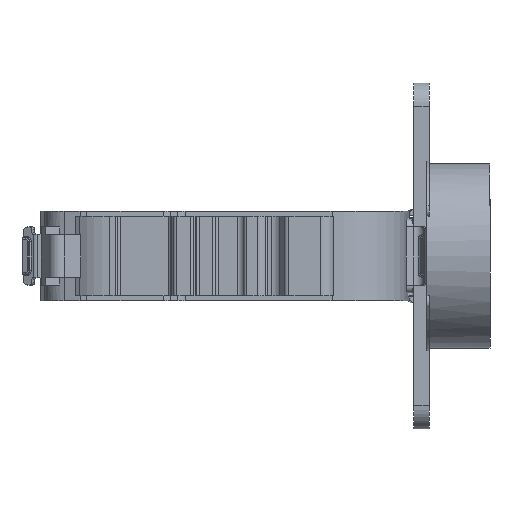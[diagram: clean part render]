
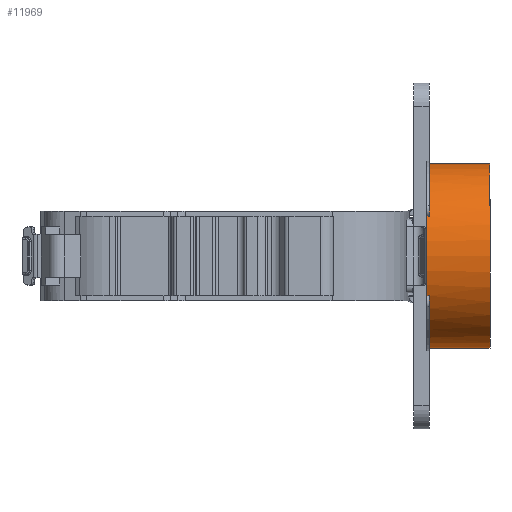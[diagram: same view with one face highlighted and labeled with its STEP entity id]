
A CAD part, front view. The second image highlights one B-rep face of the part: STEP entity #11969.
In plain terms, the highlighted cylindrical face has radius 17.45 mm (diameter 34.9 mm), a partial arc.
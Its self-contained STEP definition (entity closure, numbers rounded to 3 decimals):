
#191 = CARTESIAN_POINT ( 'NONE',  ( 37.997, 7.757, 7.528 ) ) ;
#420 = CARTESIAN_POINT ( 'NONE',  ( -11.859, 23.5, 0. ) ) ;
#468 = EDGE_CURVE ( 'NONE', #7063, #8693, #11532, .T. ) ;
#545 = CARTESIAN_POINT ( 'NONE',  ( 37.536, 7.757, -7.528 ) ) ;
#569 = AXIS2_PLACEMENT_3D ( 'NONE', #1573, #1799, #10868 ) ;
#862 = DIRECTION ( 'NONE',  ( 1., 0., 0. ) ) ;
#996 = EDGE_CURVE ( 'NONE', #13203, #8693, #7516, .T. ) ;
#1015 = LINE ( 'NONE', #10222, #9116 ) ;
#1101 = EDGE_CURVE ( 'NONE', #13203, #8026, #13282, .T. ) ;
#1117 = EDGE_CURVE ( 'NONE', #8586, #14364, #9577, .T. ) ;
#1317 = VECTOR ( 'NONE', #10310, 1000. ) ;
#1356 = DIRECTION ( 'NONE',  ( 0., 0., 1. ) ) ;
#1410 = CARTESIAN_POINT ( 'NONE',  ( 37.497, 8.034, -8.081 ) ) ;
#1514 = EDGE_CURVE ( 'NONE', #8586, #8026, #6414, .T. ) ;
#1553 = ORIENTED_EDGE ( 'NONE', *, *, #3423, .F. ) ;
#1573 = CARTESIAN_POINT ( 'NONE',  ( 37.997, 23.5, 0. ) ) ;
#1632 = CARTESIAN_POINT ( 'NONE',  ( 37.997, 23.5, 0. ) ) ;
#1796 = CARTESIAN_POINT ( 'NONE',  ( 37.497, 8.034, -8.081 ) ) ;
#1799 = DIRECTION ( 'NONE',  ( 1., 0., 0. ) ) ;
#2059 = CIRCLE ( 'NONE', #4671, 17.45 ) ;
#2167 = CIRCLE ( 'NONE', #12770, 17.45 ) ;
#2440 = VERTEX_POINT ( 'NONE', #4892 ) ;
#2544 = CARTESIAN_POINT ( 'NONE',  ( 37.516, 7.846, -7.714 ) ) ;
#2545 = ORIENTED_EDGE ( 'NONE', *, *, #1117, .T. ) ;
#2577 = CARTESIAN_POINT ( 'NONE',  ( 37.997, 7.757, -7.528 ) ) ;
#2782 = DIRECTION ( 'NONE',  ( 1., 0., 0. ) ) ;
#2799 = EDGE_CURVE ( 'NONE', #14364, #2440, #2059, .T. ) ;
#2912 = DIRECTION ( 'NONE',  ( 1., 0., 0. ) ) ;
#2926 = ORIENTED_EDGE ( 'NONE', *, *, #4491, .T. ) ;
#3026 = CARTESIAN_POINT ( 'NONE',  ( 37.497, 7.938, 7.898 ) ) ;
#3238 = VERTEX_POINT ( 'NONE', #10555 ) ;
#3423 = EDGE_CURVE ( 'NONE', #3238, #11216, #13567, .T. ) ;
#3649 = CYLINDRICAL_SURFACE ( 'NONE', #11503, 17.45 ) ;
#3831 = DIRECTION ( 'NONE',  ( 0., 0., -1. ) ) ;
#4207 = CARTESIAN_POINT ( 'NONE',  ( 37.497, 8.034, 8.081 ) ) ;
#4491 = EDGE_CURVE ( 'NONE', #3238, #7063, #11441, .T. ) ;
#4571 = CARTESIAN_POINT ( 'NONE',  ( 37.747, 7.757, 7.528 ) ) ;
#4671 = AXIS2_PLACEMENT_3D ( 'NONE', #1632, #2912, #5166 ) ;
#4790 = FACE_OUTER_BOUND ( 'NONE', #8856, .T. ) ;
#4892 = CARTESIAN_POINT ( 'NONE',  ( 37.997, 23.5, -17.45 ) ) ;
#4971 = DIRECTION ( 'NONE',  ( 1., 0., 0. ) ) ;
#5018 = DIRECTION ( 'NONE',  ( 1., 0., 0. ) ) ;
#5166 = DIRECTION ( 'NONE',  ( 0., 0., -1. ) ) ;
#5213 = CARTESIAN_POINT ( 'NONE',  ( 37.516, 7.846, 7.714 ) ) ;
#5782 = DIRECTION ( 'NONE',  ( -1., 0., 0. ) ) ;
#6414 = B_SPLINE_CURVE_WITH_KNOTS ( 'NONE', 3,
 ( #7216, #2544, #11839, #1410 ),
 .UNSPECIFIED., .F., .F.,
 ( 4, 4 ),
 ( 0.001, 0.001 ),
 .UNSPECIFIED. ) ;
#6597 = CARTESIAN_POINT ( 'NONE',  ( 49.497, 23.5, -17.45 ) ) ;
#7063 = VERTEX_POINT ( 'NONE', #191 ) ;
#7216 = CARTESIAN_POINT ( 'NONE',  ( 37.536, 7.757, -7.528 ) ) ;
#7366 = ORIENTED_EDGE ( 'NONE', *, *, #13544, .T. ) ;
#7516 = B_SPLINE_CURVE_WITH_KNOTS ( 'NONE', 3,
 ( #7712, #3026, #5213, #13308 ),
 .UNSPECIFIED., .F., .F.,
 ( 4, 4 ),
 ( 0., 0.001 ),
 .UNSPECIFIED. ) ;
#7712 = CARTESIAN_POINT ( 'NONE',  ( 37.497, 8.034, 8.081 ) ) ;
#8026 = VERTEX_POINT ( 'NONE', #1796 ) ;
#8367 = CARTESIAN_POINT ( 'NONE',  ( 49.497, 23.5, 0. ) ) ;
#8374 = CARTESIAN_POINT ( 'NONE',  ( 37.497, 23.5, 0. ) ) ;
#8515 = CARTESIAN_POINT ( 'NONE',  ( 37.747, 7.757, -7.528 ) ) ;
#8586 = VERTEX_POINT ( 'NONE', #545 ) ;
#8690 = VECTOR ( 'NONE', #4971, 1000. ) ;
#8693 = VERTEX_POINT ( 'NONE', #12343 ) ;
#8856 = EDGE_LOOP ( 'NONE', ( #1553, #2926, #14341, #10163, #13440, #9140, #2545, #11938, #7366, #12309 ) ) ;
#9116 = VECTOR ( 'NONE', #862, 1000. ) ;
#9140 = ORIENTED_EDGE ( 'NONE', *, *, #1514, .F. ) ;
#9223 = CARTESIAN_POINT ( 'NONE',  ( 49.497, 23.5, 17.45 ) ) ;
#9577 = LINE ( 'NONE', #8515, #8690 ) ;
#9623 = DIRECTION ( 'NONE',  ( 0., 0., -1. ) ) ;
#10086 = CARTESIAN_POINT ( 'NONE',  ( -11.859, 23.5, 17.45 ) ) ;
#10163 = ORIENTED_EDGE ( 'NONE', *, *, #996, .F. ) ;
#10222 = CARTESIAN_POINT ( 'NONE',  ( -11.859, 23.5, -17.45 ) ) ;
#10310 = DIRECTION ( 'NONE',  ( 1., 0., 0. ) ) ;
#10380 = VECTOR ( 'NONE', #5782, 1000. ) ;
#10555 = CARTESIAN_POINT ( 'NONE',  ( 37.997, 23.5, 17.45 ) ) ;
#10868 = DIRECTION ( 'NONE',  ( 0., 0., -1. ) ) ;
#11216 = VERTEX_POINT ( 'NONE', #9223 ) ;
#11441 = CIRCLE ( 'NONE', #569, 17.45 ) ;
#11503 = AXIS2_PLACEMENT_3D ( 'NONE', #420, #5018, #9623 ) ;
#11532 = LINE ( 'NONE', #4571, #10380 ) ;
#11600 = AXIS2_PLACEMENT_3D ( 'NONE', #8374, #2782, #1356 ) ;
#11839 = CARTESIAN_POINT ( 'NONE',  ( 37.497, 7.938, -7.898 ) ) ;
#11938 = ORIENTED_EDGE ( 'NONE', *, *, #2799, .T. ) ;
#11969 = ADVANCED_FACE ( 'NONE', ( #4790 ), #3649, .T. ) ;
#12309 = ORIENTED_EDGE ( 'NONE', *, *, #14937, .F. ) ;
#12343 = CARTESIAN_POINT ( 'NONE',  ( 37.536, 7.757, 7.528 ) ) ;
#12770 = AXIS2_PLACEMENT_3D ( 'NONE', #8367, #12986, #3831 ) ;
#12986 = DIRECTION ( 'NONE',  ( 1., 0., 0. ) ) ;
#13203 = VERTEX_POINT ( 'NONE', #4207 ) ;
#13282 = CIRCLE ( 'NONE', #11600, 17.45 ) ;
#13308 = CARTESIAN_POINT ( 'NONE',  ( 37.536, 7.757, 7.528 ) ) ;
#13440 = ORIENTED_EDGE ( 'NONE', *, *, #1101, .T. ) ;
#13544 = EDGE_CURVE ( 'NONE', #2440, #14075, #1015, .T. ) ;
#13567 = LINE ( 'NONE', #10086, #1317 ) ;
#14075 = VERTEX_POINT ( 'NONE', #6597 ) ;
#14341 = ORIENTED_EDGE ( 'NONE', *, *, #468, .T. ) ;
#14364 = VERTEX_POINT ( 'NONE', #2577 ) ;
#14937 = EDGE_CURVE ( 'NONE', #11216, #14075, #2167, .T. ) ;
